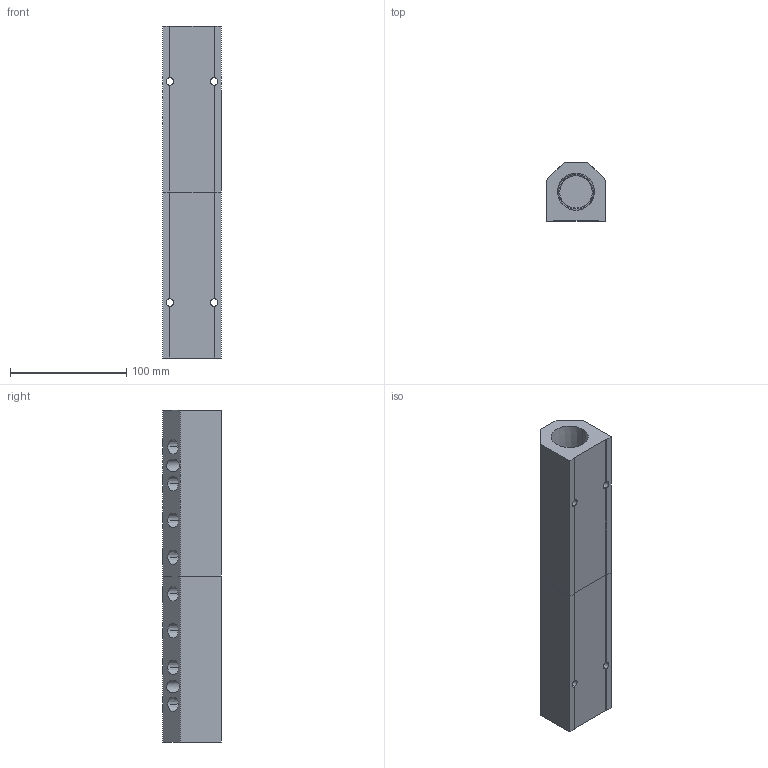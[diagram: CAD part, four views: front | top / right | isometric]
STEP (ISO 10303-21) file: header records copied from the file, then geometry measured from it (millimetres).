
FILE_DESCRIPTION (( 'STEP AP214' ), '1' );
FILE_NAME ('ALM8BCD-N4N16-286RB.STEP', '2023-11-02T06:15:40', ( '' ), ( '' ), 'SwSTEP 2.0', 'SolidWorks 2020', '' );
FILE_SCHEMA (( 'AUTOMOTIVE_DESIGN' ));
Length unit declared in the file: millimetre
Products named in the file (1): ALM8BCD-N4N16-286RB
Bounding box: 50.8 x 50.8 x 286 mm (x, y, z)
Volume: 441384.2 mm3; surface area: 96349.1 mm2
Topology: 2 solids, 2 shells, 405 faces, 1058 edges, 700 vertices
Faces by surface type: plane 229, bspline 96, cone 56, cylinder 24
Entity records: 23858 total; most frequent: CARTESIAN_POINT 10692, ORIENTED_EDGE 2116, DIRECTION 1518, EDGE_CURVE 1058, VECTOR 706, LINE 706, VERTEX_POINT 700, EDGE_LOOP 504
